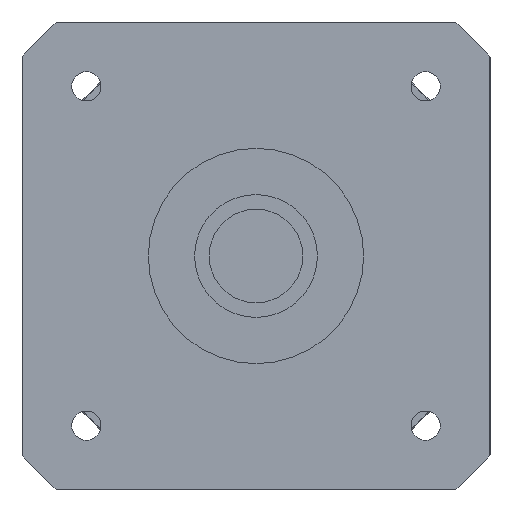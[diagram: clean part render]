
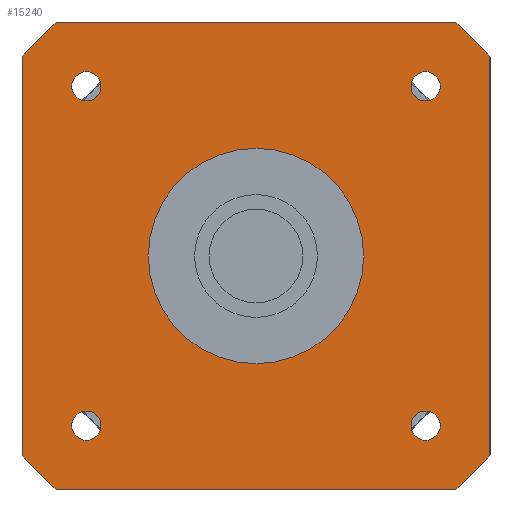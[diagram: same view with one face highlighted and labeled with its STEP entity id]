
A CAD part, left-side view. The second image highlights one B-rep face of the part: STEP entity #15240.
In plain terms, the highlighted planar face has unit normal (-1, 0, 0) as drawn and (0, 0, -1) by its records, which use the part's own axes.
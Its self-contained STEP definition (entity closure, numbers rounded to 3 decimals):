
#8680=CARTESIAN_POINT('',(28.998,-26.498,-44.2));
#8690=VERTEX_POINT('',#8680);
#8960=CARTESIAN_POINT('',(28.998,-31.498,-44.2));
#8970=VERTEX_POINT('',#8960);
#9000=CARTESIAN_POINT('',(28.998,-28.998,-44.2));
#9010=DIRECTION('',(0.,0.,-1.));
#9020=DIRECTION('',(1.,0.,0.));
#9030=AXIS2_PLACEMENT_3D('',#9000,#9010,#9020);
#9040=CIRCLE('',#9030,2.5);
#9050=CARTESIAN_POINT('',(31.498,-28.998,-44.2));
#9060=VERTEX_POINT('',#9050);
#9070=EDGE_CURVE('',#9060,#8970,#9040,.T.);
#9090=EDGE_CURVE('',#8690,#9060,#9040,.T.);
#9250=CARTESIAN_POINT('',(-34.004,-40.,-44.2));
#9260=VERTEX_POINT('',#9250);
#9410=CARTESIAN_POINT('',(34.004,-40.,-44.2));
#9420=VERTEX_POINT('',#9410);
#9450=CARTESIAN_POINT('',(-40.,-40.,-44.2));
#9460=DIRECTION('',(1.,0.,0.));
#9470=VECTOR('',#9460,1000.);
#9480=LINE('',#9450,#9470);
#9490=EDGE_CURVE('',#9260,#9420,#9480,.T.);
#12750=CARTESIAN_POINT('',(40.,34.004,-44.2));
#12760=VERTEX_POINT('',#12750);
#12840=CARTESIAN_POINT('',(34.004,40.,-44.2));
#12850=VERTEX_POINT('',#12840);
#12880=CARTESIAN_POINT('',(0.,0.,
-44.2));
#12890=DIRECTION('',(0.,0.,1.));
#12900=DIRECTION('',(1.,0.,0.));
#12910=AXIS2_PLACEMENT_3D('',#12880,#12890,#12900);
#12920=CIRCLE('',#12910,52.5);
#12930=EDGE_CURVE('',#12760,#12850,#12920,.T.);
#13070=CARTESIAN_POINT('',(40.,-34.004,-44.2));
#13080=VERTEX_POINT('',#13070);
#13130=CARTESIAN_POINT('',(40.,-40.,-44.2));
#13140=DIRECTION('',(0.,1.,0.));
#13150=VECTOR('',#13140,1000.);
#13160=LINE('',#13130,#13150);
#13170=EDGE_CURVE('',#13080,#12760,#13160,.T.);
#13280=CARTESIAN_POINT('',(0.,0.,
-44.2));
#13290=DIRECTION('',(0.,0.,1.));
#13300=DIRECTION('',(1.,0.,0.));
#13310=AXIS2_PLACEMENT_3D('',#13280,#13290,#13300);
#13320=CIRCLE('',#13310,52.5);
#13330=EDGE_CURVE('',#9420,#13080,#13320,.T.);
#13510=CARTESIAN_POINT('',(-34.004,40.,-44.2));
#13520=VERTEX_POINT('',#13510);
#13550=CARTESIAN_POINT('',(40.,40.,-44.2));
#13560=DIRECTION('',(-1.,0.,0.));
#13570=VECTOR('',#13560,1000.);
#13580=LINE('',#13550,#13570);
#13590=EDGE_CURVE('',#12850,#13520,#13580,.T.);
#13750=CARTESIAN_POINT('',(-40.,34.004,-44.2));
#13760=VERTEX_POINT('',#13750);
#13790=CARTESIAN_POINT('',(0.,0.,
-44.2));
#13800=DIRECTION('',(0.,0.,1.));
#13810=DIRECTION('',(1.,0.,0.));
#13820=AXIS2_PLACEMENT_3D('',#13790,#13800,#13810);
#13830=CIRCLE('',#13820,52.5);
#13840=EDGE_CURVE('',#13520,#13760,#13830,.T.);
#14000=CARTESIAN_POINT('',(-40.,-34.004,-44.2));
#14010=VERTEX_POINT('',#14000);
#14040=CARTESIAN_POINT('',(-40.,40.,-44.2));
#14050=DIRECTION('',(0.,-1.,0.));
#14060=VECTOR('',#14050,1000.);
#14070=LINE('',#14040,#14060);
#14080=EDGE_CURVE('',#13760,#14010,#14070,.T.);
#14210=CARTESIAN_POINT('',(0.,0.,
-44.2));
#14220=DIRECTION('',(0.,0.,1.));
#14230=DIRECTION('',(1.,0.,0.));
#14240=AXIS2_PLACEMENT_3D('',#14210,#14220,#14230);
#14250=CIRCLE('',#14240,52.5);
#14260=EDGE_CURVE('',#14010,#9260,#14250,.T.);
#14310=CARTESIAN_POINT('',(40.,40.,-44.2));
#14320=DIRECTION('',(0.,0.,1.));
#14330=DIRECTION('',(0.,1.,0.));
#14340=AXIS2_PLACEMENT_3D('',#14310,#14320,#14330);
#14350=PLANE('',#14340);
#14360=CARTESIAN_POINT('',(28.998,28.998,-44.2));
#14370=DIRECTION('',(0.,0.,-1.));
#14380=DIRECTION('',(1.,0.,0.));
#14390=AXIS2_PLACEMENT_3D('',#14360,#14370,#14380);
#14400=CIRCLE('',#14390,2.5);
#14410=CARTESIAN_POINT('',(31.498,28.998,-44.2));
#14420=VERTEX_POINT('',#14410);
#14430=CARTESIAN_POINT('',(28.998,26.498,-44.2));
#14440=VERTEX_POINT('',#14430);
#14450=EDGE_CURVE('',#14420,#14440,#14400,.T.);
#14460=ORIENTED_EDGE('',*,*,#14450,.F.);
#14470=CARTESIAN_POINT('',(28.998,31.498,-44.2));
#14480=VERTEX_POINT('',#14470);
#14490=EDGE_CURVE('',#14440,#14480,#14400,.T.);
#14500=ORIENTED_EDGE('',*,*,#14490,.F.);
#14510=EDGE_CURVE('',#14480,#14420,#14400,.T.);
#14520=ORIENTED_EDGE('',*,*,#14510,.F.);
#14530=EDGE_LOOP('',(#14520,#14500,#14460));
#14540=FACE_BOUND('',#14530,.T.);
#14550=CARTESIAN_POINT('',(-28.998,28.998,-44.2));
#14560=DIRECTION('',(0.,0.,-1.));
#14570=DIRECTION('',(1.,0.,0.));
#14580=AXIS2_PLACEMENT_3D('',#14550,#14560,#14570);
#14590=CIRCLE('',#14580,2.5);
#14600=CARTESIAN_POINT('',(-26.498,28.998,-44.2));
#14610=VERTEX_POINT('',#14600);
#14620=CARTESIAN_POINT('',(-28.998,26.498,-44.2));
#14630=VERTEX_POINT('',#14620);
#14640=EDGE_CURVE('',#14610,#14630,#14590,.T.);
#14650=ORIENTED_EDGE('',*,*,#14640,.F.);
#14660=CARTESIAN_POINT('',(-28.998,31.498,-44.2));
#14670=VERTEX_POINT('',#14660);
#14680=EDGE_CURVE('',#14630,#14670,#14590,.T.);
#14690=ORIENTED_EDGE('',*,*,#14680,.F.);
#14700=EDGE_CURVE('',#14670,#14610,#14590,.T.);
#14710=ORIENTED_EDGE('',*,*,#14700,.F.);
#14720=EDGE_LOOP('',(#14710,#14690,#14650));
#14730=FACE_BOUND('',#14720,.T.);
#14740=CARTESIAN_POINT('',(0.,0.,
-44.2));
#14750=DIRECTION('',(0.,0.,1.));
#14760=DIRECTION('',(0.,-1.,0.));
#14770=AXIS2_PLACEMENT_3D('',#14740,#14750,#14760);
#14780=CIRCLE('',#14770,18.4);
#14790=CARTESIAN_POINT('',(0.,-18.4,-44.2));
#14800=VERTEX_POINT('',#14790);
#14810=CARTESIAN_POINT('',(0.,18.4,-44.2));
#14820=VERTEX_POINT('',#14810);
#14830=EDGE_CURVE('',#14800,#14820,#14780,.T.);
#14840=ORIENTED_EDGE('',*,*,#14830,.T.);
#14850=EDGE_CURVE('',#14820,#14800,#14780,.T.);
#14860=ORIENTED_EDGE('',*,*,#14850,.T.);
#14870=EDGE_LOOP('',(#14860,#14840));
#14880=FACE_BOUND('',#14870,.T.);
#14890=CARTESIAN_POINT('',(-28.998,-28.998,-44.2));
#14900=DIRECTION('',(0.,0.,-1.));
#14910=DIRECTION('',(1.,0.,0.));
#14920=AXIS2_PLACEMENT_3D('',#14890,#14900,#14910);
#14930=CIRCLE('',#14920,2.5);
#14940=CARTESIAN_POINT('',(-26.498,-28.998,-44.2));
#14950=VERTEX_POINT('',#14940);
#14960=CARTESIAN_POINT('',(-28.998,-31.498,-44.2));
#14970=VERTEX_POINT('',#14960);
#14980=EDGE_CURVE('',#14950,#14970,#14930,.T.);
#14990=ORIENTED_EDGE('',*,*,#14980,.F.);
#15000=CARTESIAN_POINT('',(-28.998,-26.498,-44.2));
#15010=VERTEX_POINT('',#15000);
#15020=EDGE_CURVE('',#14970,#15010,#14930,.T.);
#15030=ORIENTED_EDGE('',*,*,#15020,.F.);
#15040=EDGE_CURVE('',#15010,#14950,#14930,.T.);
#15050=ORIENTED_EDGE('',*,*,#15040,.F.);
#15060=EDGE_LOOP('',(#15050,#15030,#14990));
#15070=FACE_BOUND('',#15060,.T.);
#15080=ORIENTED_EDGE('',*,*,#9070,.F.);
#15090=EDGE_CURVE('',#8970,#8690,#9040,.T.);
#15100=ORIENTED_EDGE('',*,*,#15090,.F.);
#15110=ORIENTED_EDGE('',*,*,#9090,.F.);
#15120=EDGE_LOOP('',(#15110,#15100,#15080));
#15130=FACE_BOUND('',#15120,.T.);
#15140=ORIENTED_EDGE('',*,*,#13840,.F.);
#15150=ORIENTED_EDGE('',*,*,#14080,.F.);
#15160=ORIENTED_EDGE('',*,*,#14260,.F.);
#15170=ORIENTED_EDGE('',*,*,#9490,.F.);
#15180=ORIENTED_EDGE('',*,*,#13330,.F.);
#15190=ORIENTED_EDGE('',*,*,#13170,.F.);
#15200=ORIENTED_EDGE('',*,*,#12930,.F.);
#15210=ORIENTED_EDGE('',*,*,#13590,.F.);
#15220=EDGE_LOOP('',(#15210,#15200,#15190,#15180,#15170,#15160,#15150,
#15140));
#15230=FACE_OUTER_BOUND('',#15220,.T.);
#15240=ADVANCED_FACE('',(#14540,#14730,#14880,#15070,#15130,#15230),
#14350,.F.);
